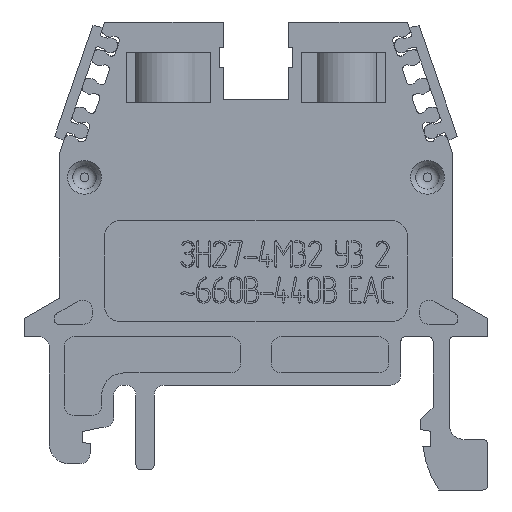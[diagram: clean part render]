
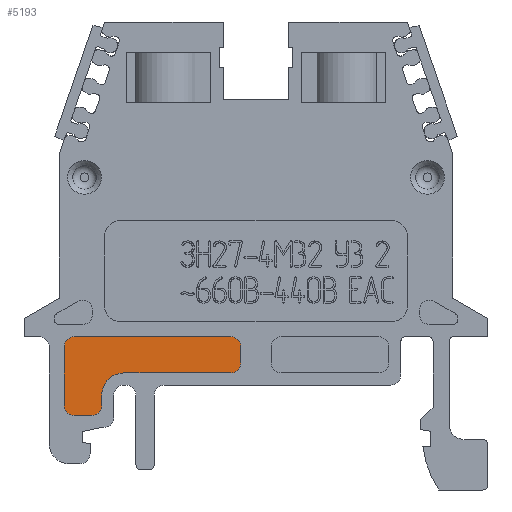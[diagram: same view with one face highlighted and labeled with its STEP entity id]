
A CAD part, left-side view. The second image highlights one B-rep face of the part: STEP entity #5193.
In plain terms, the highlighted planar face has unit normal (-1, 0, 0).
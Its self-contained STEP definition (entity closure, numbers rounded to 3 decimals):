
#5193=ADVANCED_FACE('',(#20239),#20241,.F.);
#20239=FACE_BOUND('',#20240,.T.);
#20240=EDGE_LOOP('',(#32073,#32074,#32075,#32076,#32077,#32078,#32079,#32080,#32081,
#32082,#32083,#32084));
#20241=PLANE('',#20242);
#20242=AXIS2_PLACEMENT_3D('',#20243,#20244,#20245);
#20243=CARTESIAN_POINT('',(25.7,-11.,5.));
#20244=DIRECTION('',(1.,0.,0.));
#20245=DIRECTION('',(0.,1.,0.));
#32073=ORIENTED_EDGE('',*,*,#40528,.T.);
#32074=ORIENTED_EDGE('',*,*,#40526,.T.);
#32075=ORIENTED_EDGE('',*,*,#40524,.T.);
#32076=ORIENTED_EDGE('',*,*,#40522,.T.);
#32077=ORIENTED_EDGE('',*,*,#40520,.T.);
#32078=ORIENTED_EDGE('',*,*,#40518,.T.);
#32079=ORIENTED_EDGE('',*,*,#40516,.T.);
#32080=ORIENTED_EDGE('',*,*,#40514,.T.);
#32081=ORIENTED_EDGE('',*,*,#40512,.T.);
#32082=ORIENTED_EDGE('',*,*,#40510,.T.);
#32083=ORIENTED_EDGE('',*,*,#40508,.T.);
#32084=ORIENTED_EDGE('',*,*,#40505,.T.);
#40505=EDGE_CURVE('',#46583,#46584,#46585,.T.);
#40508=EDGE_CURVE('',#46588,#46583,#46589,.F.);
#40510=EDGE_CURVE('',#46591,#46588,#46592,.T.);
#40512=EDGE_CURVE('',#46594,#46591,#46595,.F.);
#40514=EDGE_CURVE('',#46597,#46594,#46598,.T.);
#40516=EDGE_CURVE('',#46600,#46597,#46601,.F.);
#40518=EDGE_CURVE('',#46603,#46600,#46604,.T.);
#40520=EDGE_CURVE('',#46606,#46603,#46607,.F.);
#40522=EDGE_CURVE('',#46609,#46606,#46610,.T.);
#40524=EDGE_CURVE('',#46612,#46609,#46613,.F.);
#40526=EDGE_CURVE('',#46615,#46612,#46616,.T.);
#40528=EDGE_CURVE('',#46584,#46615,#46618,.F.);
#46583=VERTEX_POINT('',#58360);
#46584=VERTEX_POINT('',#58361);
#46585=LINE('',#58362,#58363);
#46588=VERTEX_POINT('',#58371);
#46589=CIRCLE('',#58372,1.);
#46591=VERTEX_POINT('',#58379);
#46592=LINE('',#58380,#58381);
#46594=VERTEX_POINT('',#58386);
#46595=CIRCLE('',#58387,1.);
#46597=VERTEX_POINT('',#58394);
#46598=LINE('',#58395,#58396);
#46600=VERTEX_POINT('',#58401);
#46601=CIRCLE('',#58402,1.);
#46603=VERTEX_POINT('',#58409);
#46604=LINE('',#58410,#58411);
#46606=VERTEX_POINT('',#58416);
#46607=CIRCLE('',#58417,1.);
#46609=VERTEX_POINT('',#58424);
#46610=LINE('',#58425,#58426);
#46612=VERTEX_POINT('',#58431);
#46613=CIRCLE('',#58432,1.);
#46615=VERTEX_POINT('',#58439);
#46616=LINE('',#58440,#58441);
#46618=CIRCLE('',#58446,2.2);
#58360=CARTESIAN_POINT('',(25.7,4.3,13.4));
#58361=CARTESIAN_POINT('',(25.7,4.3,14.4));
#58362=CARTESIAN_POINT('',(25.7,4.3,13.4));
#58363=VECTOR('',#58364,1.);
#58364=DIRECTION('',(0.,0.,1.));
#58371=CARTESIAN_POINT('',(25.7,5.3,12.4));
#58372=AXIS2_PLACEMENT_3D('',#58373,#58374,#58375);
#58373=CARTESIAN_POINT('',(25.7,5.3,13.4));
#58374=DIRECTION('',(1.,0.,0.));
#58375=DIRECTION('',(0.,-1.,0.));
#58379=CARTESIAN_POINT('',(25.7,7.,12.4));
#58380=CARTESIAN_POINT('',(25.7,7.,12.4));
#58381=VECTOR('',#58382,1.);
#58382=DIRECTION('',(0.,-1.,0.));
#58386=CARTESIAN_POINT('',(25.7,8.,13.4));
#58387=AXIS2_PLACEMENT_3D('',#58388,#58389,#58390);
#58388=CARTESIAN_POINT('',(25.7,7.,13.4));
#58389=DIRECTION('',(1.,0.,0.));
#58390=DIRECTION('',(0.,0.,-1.));
#58394=CARTESIAN_POINT('',(25.7,8.,19.2));
#58395=CARTESIAN_POINT('',(25.7,8.,19.2));
#58396=VECTOR('',#58397,1.);
#58397=DIRECTION('',(0.,0.,-1.));
#58401=CARTESIAN_POINT('',(25.7,7.,20.2));
#58402=AXIS2_PLACEMENT_3D('',#58403,#58404,#58405);
#58403=CARTESIAN_POINT('',(25.7,7.,19.2));
#58404=DIRECTION('',(1.,0.,0.));
#58405=DIRECTION('',(0.,1.,0.));
#58409=CARTESIAN_POINT('',(25.7,-8.5,20.2));
#58410=CARTESIAN_POINT('',(25.7,-8.5,20.2));
#58411=VECTOR('',#58412,1.);
#58412=DIRECTION('',(0.,1.,0.));
#58416=CARTESIAN_POINT('',(25.7,-9.5,19.2));
#58417=AXIS2_PLACEMENT_3D('',#58418,#58419,#58420);
#58418=CARTESIAN_POINT('',(25.7,-8.5,19.2));
#58419=DIRECTION('',(1.,0.,0.));
#58420=DIRECTION('',(0.,0.,1.));
#58424=CARTESIAN_POINT('',(25.7,-9.5,17.6));
#58425=CARTESIAN_POINT('',(25.7,-9.5,17.6));
#58426=VECTOR('',#58427,1.);
#58427=DIRECTION('',(0.,0.,1.));
#58431=CARTESIAN_POINT('',(25.7,-8.5,16.6));
#58432=AXIS2_PLACEMENT_3D('',#58433,#58434,#58435);
#58433=CARTESIAN_POINT('',(25.7,-8.5,17.6));
#58434=DIRECTION('',(1.,0.,0.));
#58435=DIRECTION('',(0.,-1.,0.));
#58439=CARTESIAN_POINT('',(25.7,2.1,16.6));
#58440=CARTESIAN_POINT('',(25.7,2.1,16.6));
#58441=VECTOR('',#58442,1.);
#58442=DIRECTION('',(0.,-1.,0.));
#58446=AXIS2_PLACEMENT_3D('',#58447,#58448,#58449);
#58447=CARTESIAN_POINT('',(25.7,2.1,14.4));
#58448=DIRECTION('',(-1.,0.,0.));
#58449=DIRECTION('',(0.,0.,1.));
